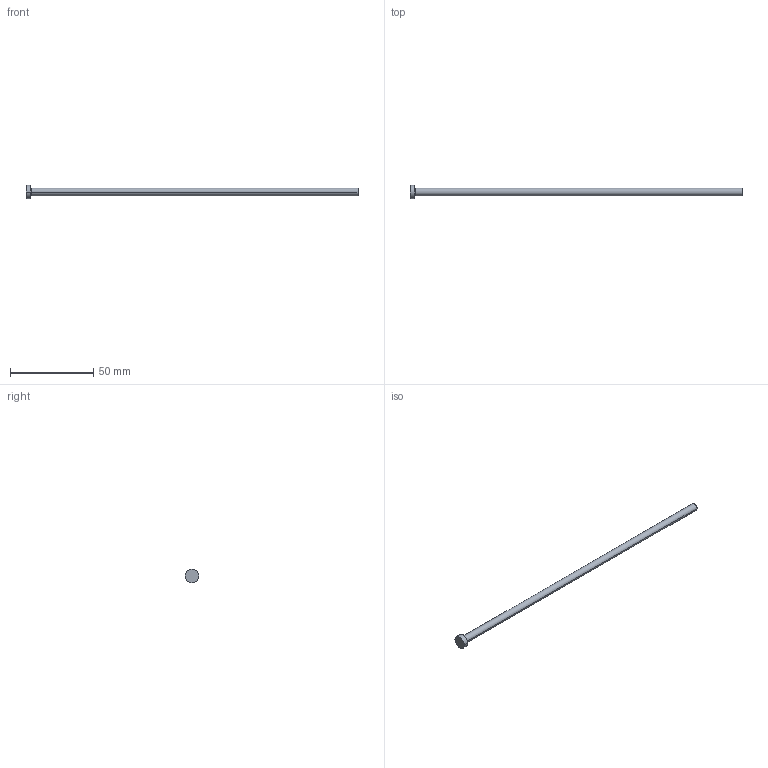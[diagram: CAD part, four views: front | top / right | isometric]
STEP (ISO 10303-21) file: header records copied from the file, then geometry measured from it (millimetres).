
FILE_DESCRIPTION (( 'STEP AP214' ), '1' );
FILE_NAME ('A-4,5x200.STEP', '2020-05-29T10:25:10', ( 'August' ), ( '' ), 'SwSTEP 2.0', 'SolidWorks 2018', '' );
FILE_SCHEMA (( 'AUTOMOTIVE_DESIGN' ));
Length unit declared in the file: millimetre
Products named in the file (1): A-4,5x200
Bounding box: 200 x 8 x 8 mm (x, y, z)
Volume: 3284.2 mm3; surface area: 2959.2 mm2
Topology: 1 solids, 1 shells, 9 faces, 16 edges, 10 vertices
Faces by surface type: cylinder 4, plane 3, torus 2
Entity records: 260 total; most frequent: DIRECTION 48, CARTESIAN_POINT 36, ORIENTED_EDGE 32, AXIS2_PLACEMENT_3D 22, EDGE_CURVE 16, CIRCLE 12, EDGE_LOOP 10, VERTEX_POINT 10
